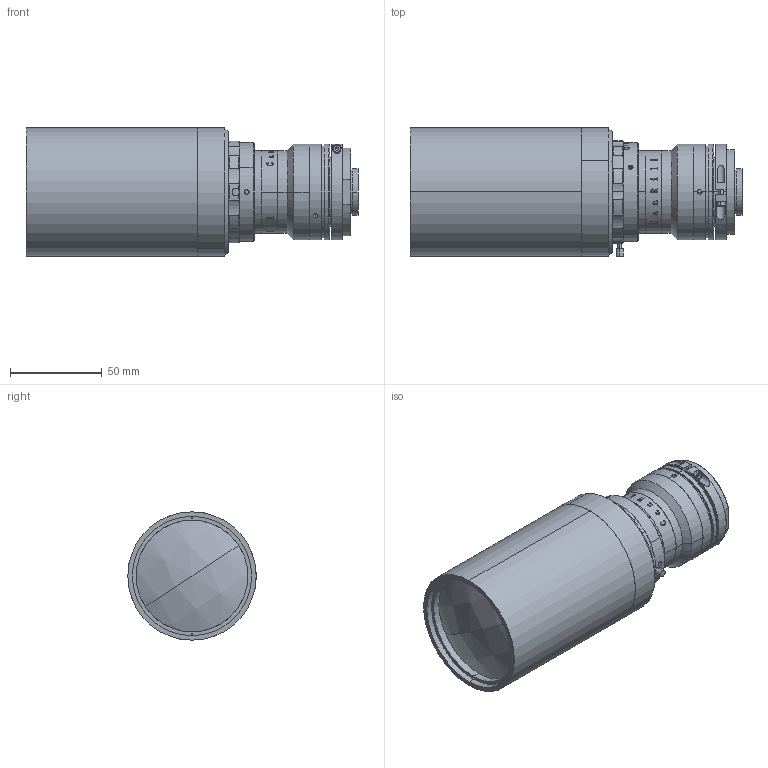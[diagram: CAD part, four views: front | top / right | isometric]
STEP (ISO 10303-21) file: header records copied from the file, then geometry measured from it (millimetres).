
FILE_DESCRIPTION (( 'STEP AP203' ), '1' );
FILE_NAME ('XF-PTL04516-C-VI1.STEP', '2020-05-09T01:23:51', ( 'puyufan' ), ( '' ), 'SwSTEP 2.0', 'SolidWorks 2014', '' );
FILE_SCHEMA (( 'CONFIG_CONTROL_DESIGN' ));
Length unit declared in the file: millimetre
Products named in the file (1): XF-PTL04516-C-VI1
Bounding box: 181.07 x 70 x 70 mm (x, y, z)
Surface area: 57303.7 mm2 (no closed solid volume)
Topology: 0 solids, 50 shells, 251 faces, 1284 edges, 1070 vertices
Faces by surface type: cylinder 120, plane 78, cone 30, torus 10, bspline 9, sphere 4
Entity records: 21238 total; most frequent: CARTESIAN_POINT 11738, DIRECTION 1810, ORIENTED_EDGE 1704, EDGE_CURVE 1278, VERTEX_POINT 1070, AXIS2_PLACEMENT_3D 702, CIRCLE 459, B_SPLINE_CURVE_WITH_KNOTS 413
